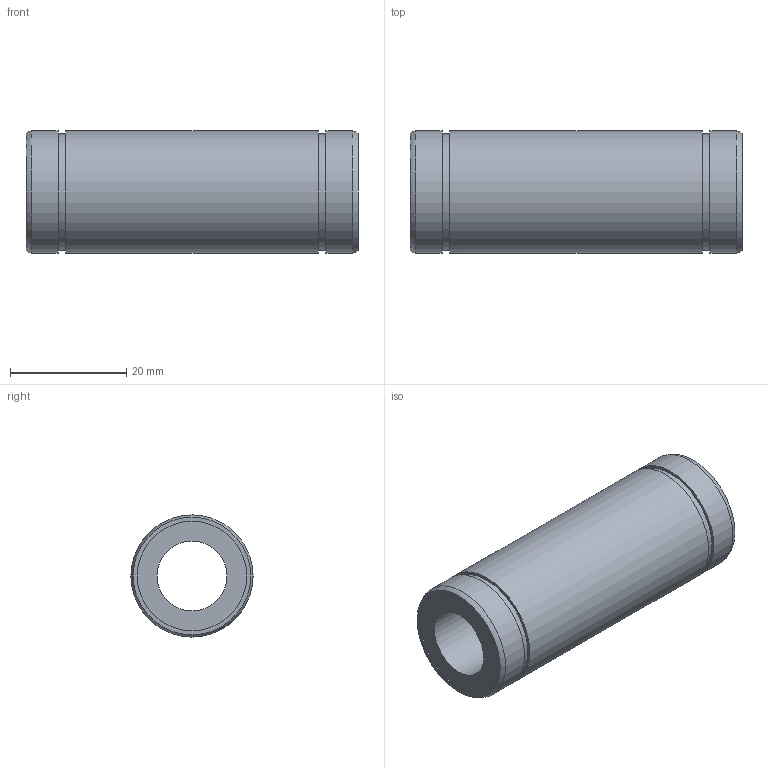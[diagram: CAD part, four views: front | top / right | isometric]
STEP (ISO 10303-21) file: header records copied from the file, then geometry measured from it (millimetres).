
FILE_DESCRIPTION((''),'2;1');
FILE_NAME('D:\製品 (図面)\カタログ用3D\リニアベアリング関連\STEP形式\LD\LD12.stp','2010-06-02T17:40:25',('Tsuchiya'),(''),'Autodesk Inventor 10','Autodesk Inventor 10','');
FILE_SCHEMA(('AUTOMOTIVE_DESIGN { 1 0 10303 214 1 1 1 1 }'));
Length unit declared in the file: millimetre
Products named in the file (1): LD12
Bounding box: 57 x 21 x 21 mm (x, y, z)
Volume: 13158.3 mm3; surface area: 6457.8 mm2
Topology: 1 solids, 1 shells, 18 faces, 28 edges, 18 vertices
Faces by surface type: plane 8, cylinder 8, torus 2
Full cylindrical faces by diameter (mm): 12 x1, 18.8 x2, 20 x2, 21 x3
Entity records: 391 total; most frequent: DIRECTION 74, CARTESIAN_POINT 55, AXIS2_PLACEMENT_3D 37, ORIENTED_EDGE 36, EDGE_LOOP 36, VERTEX_POINT 18, CIRCLE 18, EDGE_CURVE 18
